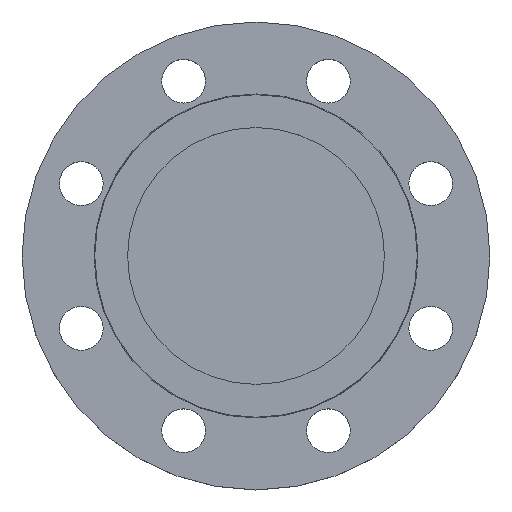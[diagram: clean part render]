
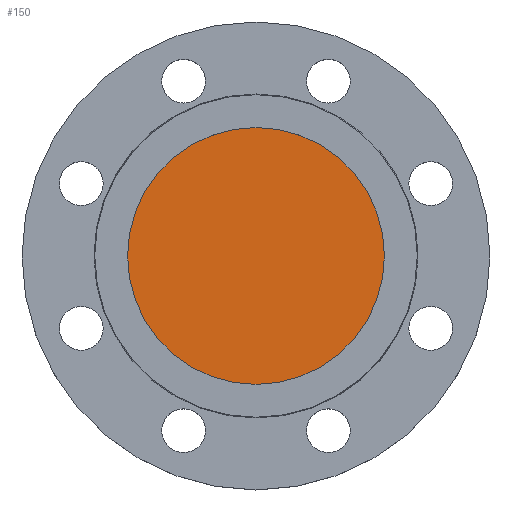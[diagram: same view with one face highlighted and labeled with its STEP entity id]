
A CAD part, top view. The second image highlights one B-rep face of the part: STEP entity #150.
In plain terms, the highlighted planar face has unit normal (0, 0, 1).
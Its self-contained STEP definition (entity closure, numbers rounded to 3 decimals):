
#28 = DIRECTION ( 'NONE',  ( 0., 0., 1. ) ) ;
#37 = CARTESIAN_POINT ( 'NONE',  ( 64.5, 0., -5. ) ) ;
#47 = CIRCLE ( 'NONE', #517, 64.5 ) ;
#115 = FACE_OUTER_BOUND ( 'NONE', #784, .T. ) ;
#150 = ADVANCED_FACE ( 'NONE', ( #115 ), #438, .T. ) ;
#164 = CARTESIAN_POINT ( 'NONE',  ( -64.5, 0., -5. ) ) ;
#249 = CARTESIAN_POINT ( 'NONE',  ( 0., 0., -5. ) ) ;
#311 = CARTESIAN_POINT ( 'NONE',  ( 0., 0., -5. ) ) ;
#330 = EDGE_CURVE ( 'NONE', #649, #857, #591, .T. ) ;
#354 = DIRECTION ( 'NONE',  ( 1., 0., 0. ) ) ;
#438 = PLANE ( 'NONE',  #548 ) ;
#517 = AXIS2_PLACEMENT_3D ( 'NONE', #249, #584, #870 ) ;
#548 = AXIS2_PLACEMENT_3D ( 'NONE', #754, #28, #354 ) ;
#579 = AXIS2_PLACEMENT_3D ( 'NONE', #311, #652, #932 ) ;
#584 = DIRECTION ( 'NONE',  ( 0., 0., -1. ) ) ;
#591 = CIRCLE ( 'NONE', #579, 64.5 ) ;
#649 = VERTEX_POINT ( 'NONE', #37 ) ;
#652 = DIRECTION ( 'NONE',  ( 0., 0., -1. ) ) ;
#754 = CARTESIAN_POINT ( 'NONE',  ( 0., 0., -5. ) ) ;
#784 = EDGE_LOOP ( 'NONE', ( #937, #861 ) ) ;
#857 = VERTEX_POINT ( 'NONE', #164 ) ;
#861 = ORIENTED_EDGE ( 'NONE', *, *, #330, .F. ) ;
#870 = DIRECTION ( 'NONE',  ( -1., 0., 0. ) ) ;
#892 = EDGE_CURVE ( 'NONE', #857, #649, #47, .T. ) ;
#932 = DIRECTION ( 'NONE',  ( -1., 0., 0. ) ) ;
#937 = ORIENTED_EDGE ( 'NONE', *, *, #892, .F. ) ;
